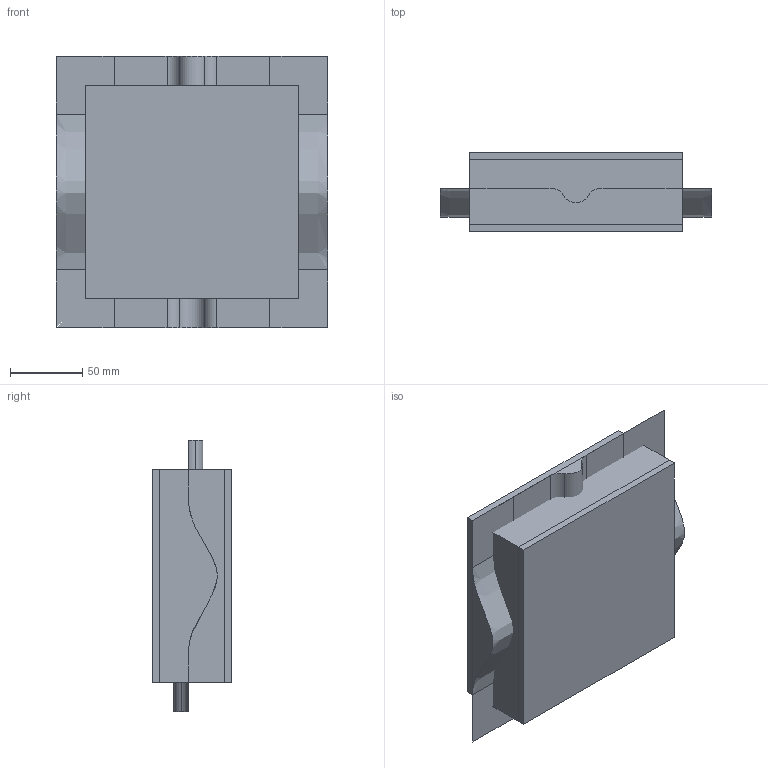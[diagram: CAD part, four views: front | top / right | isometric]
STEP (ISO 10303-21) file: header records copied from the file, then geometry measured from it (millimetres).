
FILE_DESCRIPTION(('CATIA V5 STEP Exchange'),'2;1');
FILE_NAME('C:\_Andres\UNIVERSIDAD\IQS\ASIGNATURAS\DAO\EXF\EXF-16172c\2inicio\dAndrea_Torrejon_Ej02_v8.stp','2017-03-05T15:45:19+00:00',('none'),('none'),'CATIA Version 5-6 Release 2014 SP1 HF18','CATIA V5 STEP AP203','none');
FILE_SCHEMA(('CONFIG_CONTROL_DESIGN'));
Length unit declared in the file: millimetre
Products named in the file (1): dAndrea_Torrejon_Ej02_v8
Bounding box: 188 x 55 x 188 mm (x, y, z)
Surface area: 225257.1 mm2
Topology: 3 solids, 10 shells, 72 faces, 205 edges, 150 vertices
Faces by surface type: bspline 32, plane 32, cylinder 6, extrusion 2
Entity records: 6590 total; most frequent: CARTESIAN_POINT 5273, ORIENTED_EDGE 288, DIRECTION 151, EDGE_CURVE 132, VERTEX_POINT 84, VECTOR 77, LINE 75, ADVANCED_FACE 72
